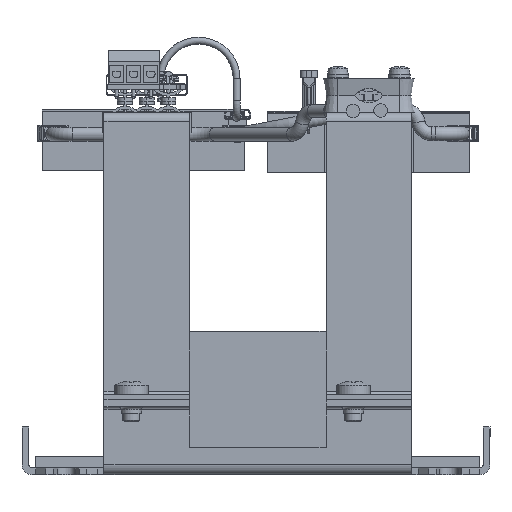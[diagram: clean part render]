
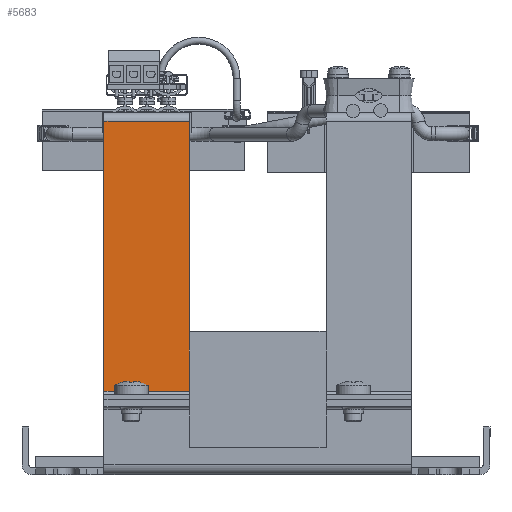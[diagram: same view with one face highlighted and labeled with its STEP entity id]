
A CAD part, front view. The second image highlights one B-rep face of the part: STEP entity #5683.
In plain terms, the highlighted planar face has unit normal (0, -1, 0) as drawn and (1, 0, 0) by its records, which use the part's own axes.
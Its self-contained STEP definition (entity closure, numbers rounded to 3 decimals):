
#5625=CARTESIAN_POINT('',(78.0,81.5,25.0));
#5626=VERTEX_POINT('',#5625);
#5634=CARTESIAN_POINT('',(78.0,81.5,0.0));
#5635=VERTEX_POINT('',#5634);
#5636=CARTESIAN_POINT('',(78.0,81.5,0.0));
#5637=DIRECTION('',(0.0,0.0,1.0));
#5638=VECTOR('',#5637,25.0);
#5639=LINE('',#5636,#5638);
#5640=EDGE_CURVE('',#5635,#5626,#5639,.T.);
#5653=CARTESIAN_POINT('',(78.0,81.5,0.0));
#5654=DIRECTION('',(1.0,0.0,0.0));
#5655=DIRECTION('',(0.0,0.0,-1.0));
#5656=AXIS2_PLACEMENT_3D('',#5653,#5654,#5655);
#5657=PLANE('',#5656);
#5658=CARTESIAN_POINT('',(78.0,2.5,25.0));
#5659=VERTEX_POINT('',#5658);
#5660=CARTESIAN_POINT('',(78.0,81.5,25.0));
#5661=DIRECTION('',(0.0,-1.0,0.0));
#5662=VECTOR('',#5661,79.0);
#5663=LINE('',#5660,#5662);
#5664=EDGE_CURVE('',#5626,#5659,#5663,.T.);
#5665=ORIENTED_EDGE('',*,*,#5664,.T.);
#5666=CARTESIAN_POINT('',(78.0,2.5,0.0));
#5667=VERTEX_POINT('',#5666);
#5668=CARTESIAN_POINT('',(78.0,2.5,0.0));
#5669=DIRECTION('',(0.0,0.0,1.0));
#5670=VECTOR('',#5669,25.0);
#5671=LINE('',#5668,#5670);
#5672=EDGE_CURVE('',#5667,#5659,#5671,.T.);
#5673=ORIENTED_EDGE('',*,*,#5672,.F.);
#5674=CARTESIAN_POINT('',(78.0,2.5,0.0));
#5675=DIRECTION('',(0.0,1.0,0.0));
#5676=VECTOR('',#5675,79.0);
#5677=LINE('',#5674,#5676);
#5678=EDGE_CURVE('',#5667,#5635,#5677,.T.);
#5679=ORIENTED_EDGE('',*,*,#5678,.T.);
#5680=ORIENTED_EDGE('',*,*,#5640,.T.);
#5681=EDGE_LOOP('',(#5665,#5673,#5679,#5680));
#5682=FACE_OUTER_BOUND('',#5681,.T.);
#5683=ADVANCED_FACE('',(#5682),#5657,.T.);
